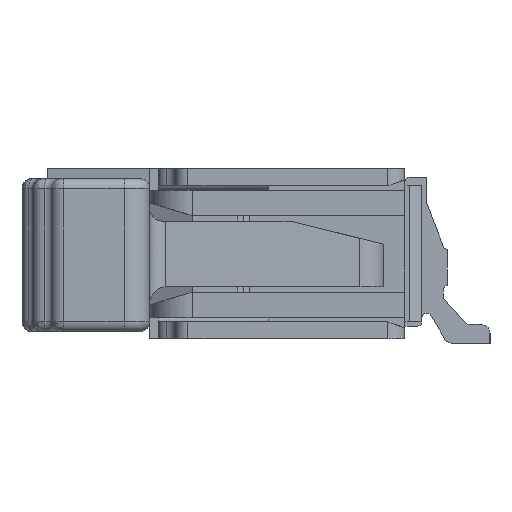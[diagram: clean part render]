
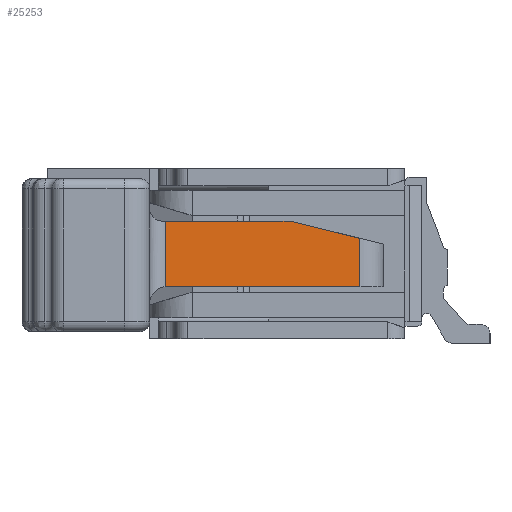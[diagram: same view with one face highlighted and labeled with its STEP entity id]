
A CAD part, left-side view. The second image highlights one B-rep face of the part: STEP entity #25253.
In plain terms, the highlighted planar face has unit normal (-0.997, -0.072, 0).
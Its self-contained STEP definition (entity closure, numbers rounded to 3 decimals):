
#18171=DIRECTION('',(-0.073,0.997,0.));
#18172=VECTOR('',#18171,1.468);
#18173=CARTESIAN_POINT('',(-16.685,-3.15,
0.385));
#18174=LINE('',#18173,#18172);
#18234=DIRECTION('',(0.073,-0.997,0.));
#18235=VECTOR('',#18234,2.278);
#18236=CARTESIAN_POINT('',(-16.79,-1.7,
-0.385));
#18237=LINE('',#18236,#18235);
#18339=DIRECTION('',(0.,0.,-1.));
#18340=VECTOR('',#18339,0.771);
#18341=CARTESIAN_POINT('',(-16.792,-1.685,
0.385));
#18342=LINE('',#18341,#18340);
#18347=DIRECTION('',(0.07,-0.969,-0.238));
#18348=VECTOR('',#18347,0.848);
#18349=CARTESIAN_POINT('',(-16.685,-3.15,
0.385));
#18350=LINE('',#18349,#18348);
#18351=CARTESIAN_POINT('',(-16.79,-1.7,
-0.385));
#18352=CARTESIAN_POINT('',(-16.791,-1.695,
-0.385));
#18353=CARTESIAN_POINT('',(-16.791,-1.69,
-0.385));
#18354=CARTESIAN_POINT('',(-16.792,-1.685,
-0.386));
#18364=DIRECTION('',(0.,0.,1.));
#18365=VECTOR('',#18364,0.568);
#18366=CARTESIAN_POINT('',(-16.625,-3.972,
-0.385));
#18367=LINE('',#18366,#18365);
#19566=CARTESIAN_POINT('',(-16.685,-3.15,
0.385));
#19567=VERTEX_POINT('',#19566);
#19568=CARTESIAN_POINT('',(-16.792,-1.685,
0.385));
#19569=VERTEX_POINT('',#19568);
#19590=CARTESIAN_POINT('',(-16.79,-1.7,
-0.385));
#19591=VERTEX_POINT('',#19590);
#19592=CARTESIAN_POINT('',(-16.625,-3.972,
-0.385));
#19593=VERTEX_POINT('',#19592);
#19618=CARTESIAN_POINT('',(-16.792,-1.685,
-0.386));
#19619=VERTEX_POINT('',#19618);
#19620=CARTESIAN_POINT('',(-16.625,-3.972,
0.183));
#19621=VERTEX_POINT('',#19620);
#25237=CARTESIAN_POINT('',(-16.708,-2.829,
0.));
#25238=DIRECTION('',(0.997,0.073,0.));
#25239=DIRECTION('',(0.073,-0.997,0.));
#25240=AXIS2_PLACEMENT_3D('',#25237,#25238,#25239);
#25241=PLANE('',#25240);
#25243=ORIENTED_EDGE('',*,*,#25242,.T.);
#25245=ORIENTED_EDGE('',*,*,#25244,.F.);
#25246=ORIENTED_EDGE('',*,*,#25122,.F.);
#25248=ORIENTED_EDGE('',*,*,#25247,.T.);
#25249=ORIENTED_EDGE('',*,*,#25228,.F.);
#25250=ORIENTED_EDGE('',*,*,#25045,.F.);
#25251=EDGE_LOOP('',(#25243,#25245,#25246,#25248,#25249,#25250));
#25252=FACE_OUTER_BOUND('',#25251,.F.);
#18355=B_SPLINE_CURVE_WITH_KNOTS('',3,(#18351,#18352,#18353,#18354),
.UNSPECIFIED.,.F.,.F.,(4,4),(0.,1.),.UNSPECIFIED.);
#25045=EDGE_CURVE('',#19567,#19569,#18174,.T.);
#25122=EDGE_CURVE('',#19591,#19593,#18237,.T.);
#25228=EDGE_CURVE('',#19569,#19619,#18342,.T.);
#25242=EDGE_CURVE('',#19567,#19621,#18350,.T.);
#25244=EDGE_CURVE('',#19593,#19621,#18367,.T.);
#25247=EDGE_CURVE('',#19591,#19619,#18355,.T.);
#25253=ADVANCED_FACE('',(#25252),#25241,.F.);
